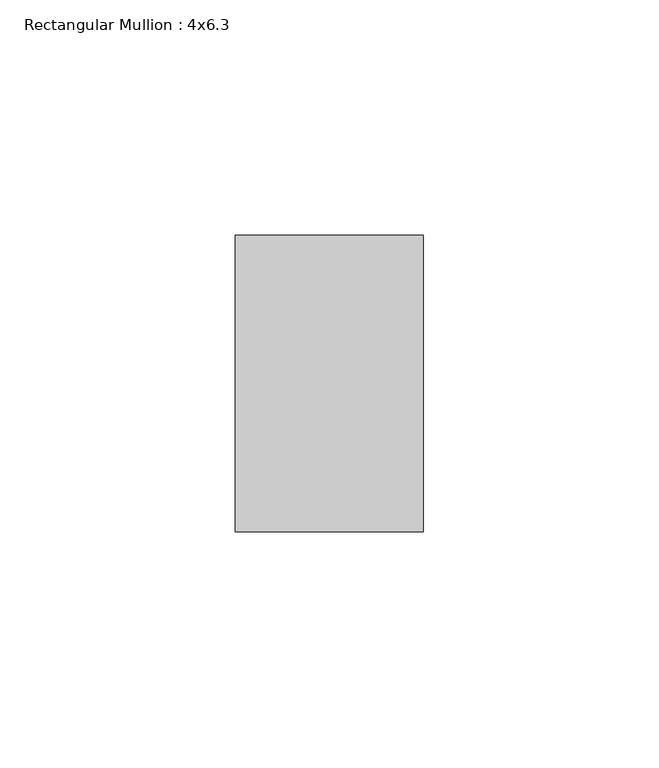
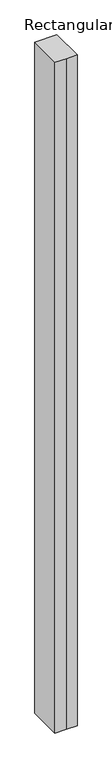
"""IFC4 building model written with IfcOpenShell, lengths in millimetres: member geometry, Rectangular Mullion : 4x6.3."""

from ifc_helpers import new_model, si_unit, frame, origin, place, context, project, spatial, polyline, outline, extrude, source, transform, mapped, element, save


def rectangular_mullion_4x6_3_53df0ab5(model_context):
    return source(origin(), model_context, "Body", "SweptSolid", [
        extrude(outline(polyline([(-20.0, 20.0), (-20.0, 83.0), (20.0, 83.0), (20.0, 20.0), (0.0, 20.0), (-20.0, 20.0)])), frame((0.0, 0.0, -1284.8315712), z_axis=(0.0, 0.0, 1.0), x_axis=(1.0, 0.0, 0.0)), (0.0, 0.0, 1.0), 1284.8315712),
    ])


if __name__ == "__main__":
    model = new_model("IFC4")
    model_context = context("Model", 3, world=origin())
    ifc_project = project(units=[si_unit("LENGTHUNIT", "METRE", prefix="MILLI")], contexts=[model_context])
    site = spatial("IfcSite", under=ifc_project)
    building = spatial("IfcBuilding", under=site)
    placement = place(None, origin())
    rectangular_mullion_4x6_3_shape = rectangular_mullion_4x6_3_53df0ab5(model_context)
    element("IfcMember", 1, ObjectType="Rectangular Mullion : 4x6.3", at=placement, inside=building, context=model_context, shape_type="MappedRepresentation", body=[
        mapped(rectangular_mullion_4x6_3_shape, transform((0.0, 0.0, 0.0), x_axis=(1.0, 0.0, 0.0), y_axis=(0.0, 1.0, 0.0), z_axis=(0.0, 0.0, 1.0))),
    ])
    save(model, "model.ifc")
